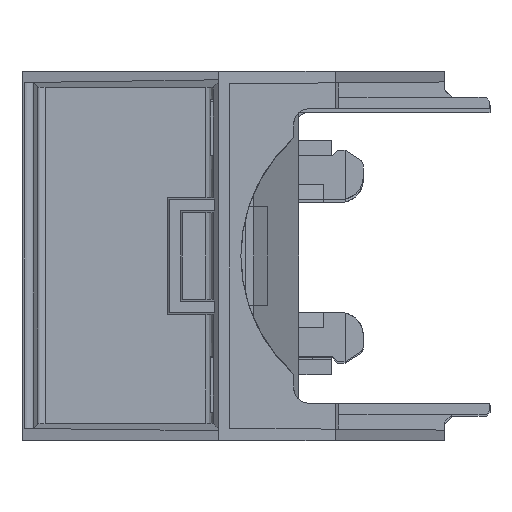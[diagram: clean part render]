
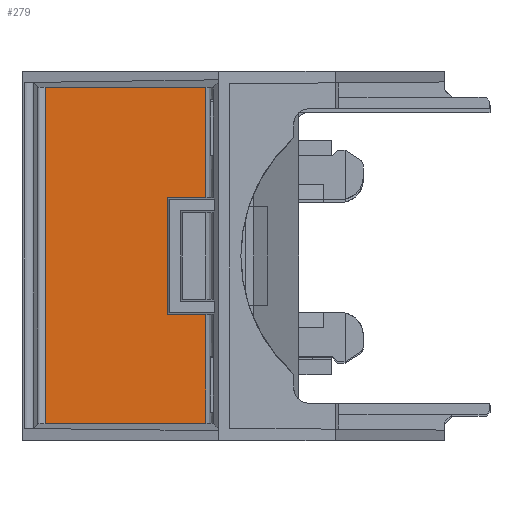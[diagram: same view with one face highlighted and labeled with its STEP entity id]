
A CAD part, left-side view. The second image highlights one B-rep face of the part: STEP entity #279.
In plain terms, the highlighted planar face has unit normal (-1, 0, 0).
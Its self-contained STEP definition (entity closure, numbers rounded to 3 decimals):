
#279=ADVANCED_FACE('',(#1035),#681,.F.);
#681=PLANE('',#8252);
#1035=FACE_OUTER_BOUND('',#1437,.T.);
#1437=EDGE_LOOP('',(#1841,#1842,#1843,#1844,#1845,#1846,#1847,#1848));
#1841=ORIENTED_EDGE('',*,*,#4974,.F.);
#1842=ORIENTED_EDGE('',*,*,#4975,.T.);
#1843=ORIENTED_EDGE('',*,*,#4976,.F.);
#1844=ORIENTED_EDGE('',*,*,#4977,.T.);
#1845=ORIENTED_EDGE('',*,*,#4978,.T.);
#1846=ORIENTED_EDGE('',*,*,#4979,.T.);
#1847=ORIENTED_EDGE('',*,*,#4980,.F.);
#1848=ORIENTED_EDGE('',*,*,#4981,.F.);
#4199=VERTEX_POINT('',#10898);
#4200=VERTEX_POINT('',#10899);
#4201=VERTEX_POINT('',#10901);
#4202=VERTEX_POINT('',#10903);
#4203=VERTEX_POINT('',#10905);
#4204=VERTEX_POINT('',#10907);
#4205=VERTEX_POINT('',#10909);
#4206=VERTEX_POINT('',#10911);
#4974=EDGE_CURVE('',#4199,#4200,#6153,.T.);
#4975=EDGE_CURVE('',#4199,#4201,#6154,.T.);
#4976=EDGE_CURVE('',#4202,#4201,#6155,.T.);
#4977=EDGE_CURVE('',#4202,#4203,#6156,.T.);
#4978=EDGE_CURVE('',#4203,#4204,#6157,.T.);
#4979=EDGE_CURVE('',#4204,#4205,#6158,.T.);
#4980=EDGE_CURVE('',#4206,#4205,#6159,.T.);
#4981=EDGE_CURVE('',#4200,#4206,#6160,.T.);
#6153=LINE('',#10897,#7202);
#6154=LINE('',#10900,#7203);
#6155=LINE('',#10902,#7204);
#6156=LINE('',#10904,#7205);
#6157=LINE('',#10906,#7206);
#6158=LINE('',#10908,#7207);
#6159=LINE('',#10910,#7208);
#6160=LINE('',#10912,#7209);
#7202=VECTOR('',#8785,1.);
#7203=VECTOR('',#8786,1.);
#7204=VECTOR('',#8787,1.);
#7205=VECTOR('',#8788,1.);
#7206=VECTOR('',#8789,1.);
#7207=VECTOR('',#8790,1.);
#7208=VECTOR('',#8791,1.);
#7209=VECTOR('',#8792,1.);
#8252=AXIS2_PLACEMENT_3D('',#10913,#8793,#8794);
#8785=DIRECTION('',(0.,1.,0.003));
#8786=DIRECTION('',(0.,0.,1.));
#8787=DIRECTION('',(0.,-1.,0.));
#8788=DIRECTION('',(0.,0.,-1.));
#8789=DIRECTION('',(0.,-1.,0.003));
#8790=DIRECTION('',(0.,0.,1.));
#8791=DIRECTION('',(0.,-1.,0.003));
#8792=DIRECTION('',(0.,0.,-1.));
#8793=DIRECTION('',(1.,0.,0.));
#8794=DIRECTION('',(0.,0.,-1.));
#10897=CARTESIAN_POINT('',(-357.583,6.495,8.021));
#10898=CARTESIAN_POINT('',(-357.583,1.656,8.007));
#10899=CARTESIAN_POINT('',(-357.583,6.762,8.021));
#10900=CARTESIAN_POINT('',(-357.583,1.656,22.6));
#10901=CARTESIAN_POINT('',(-357.583,1.656,22.6));
#10902=CARTESIAN_POINT('',(-357.583,26.,22.6));
#10903=CARTESIAN_POINT('',(-357.583,22.901,22.6));
#10904=CARTESIAN_POINT('',(-357.583,22.901,-21.961));
#10905=CARTESIAN_POINT('',(-357.583,22.901,-21.958));
#10906=CARTESIAN_POINT('',(-357.583,25.872,-21.967));
#10907=CARTESIAN_POINT('',(-357.583,1.656,-21.9));
#10908=CARTESIAN_POINT('',(-357.583,1.656,22.6));
#10909=CARTESIAN_POINT('',(-357.583,1.656,-7.507));
#10910=CARTESIAN_POINT('',(-357.583,6.462,-7.52));
#10911=CARTESIAN_POINT('',(-357.583,6.762,-7.521));
#10912=CARTESIAN_POINT('',(-357.583,6.762,6.25));
#10913=CARTESIAN_POINT('',(-357.583,26.,24.75));
